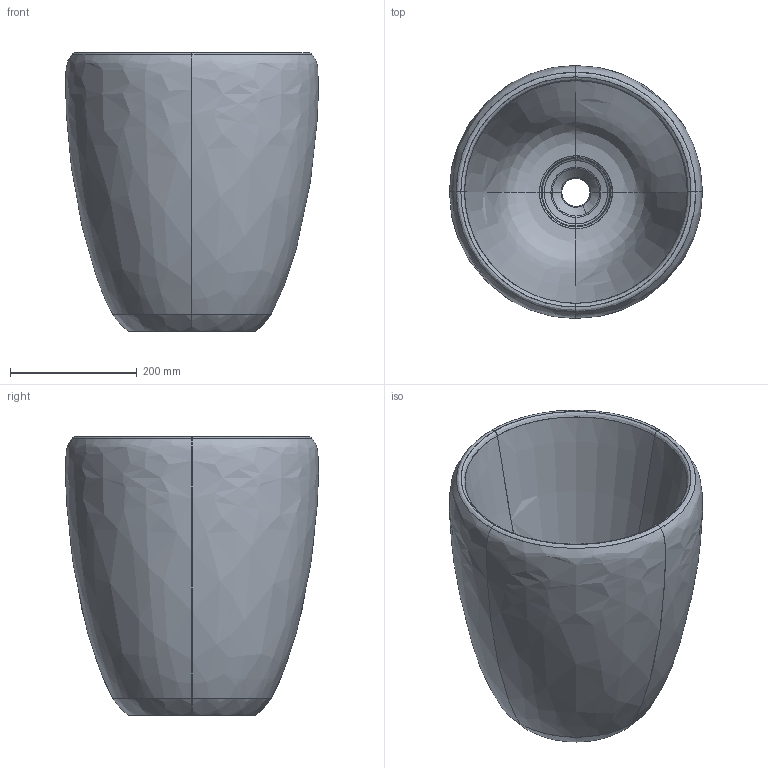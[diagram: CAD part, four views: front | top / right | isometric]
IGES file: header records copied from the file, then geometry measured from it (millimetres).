
Start section: START RECORD GO HERE.
Global section: file name: 7104.igs; native system: DASSAULT SYSTEMES CATIA V5 R19 - www.3ds.com; preprocessor: CATIA Version 5 Release 19 SP 5 ; author: gioge; organization: LAPTOP-G94B6G74; date: 20201002.173130; units: millimetre
Bounding box: 399.63 x 399.85 x 440 mm (x, y, z)
Surface area: 898988.2 mm2 (no closed solid volume)
Topology: 0 solids, 0 shells, 94 faces, 392 edges, 392 vertices
Faces by surface type: bspline 78, revolution 12, plane 4
